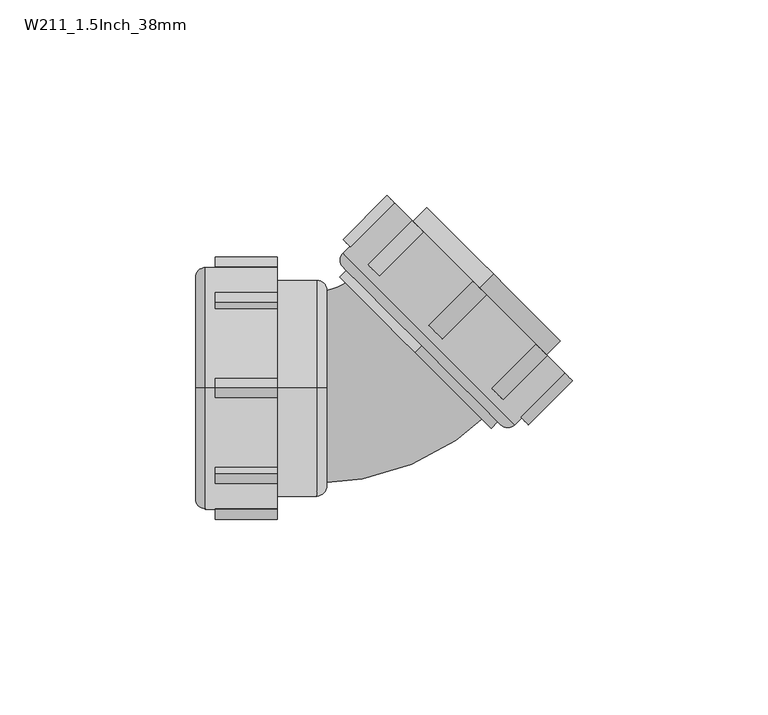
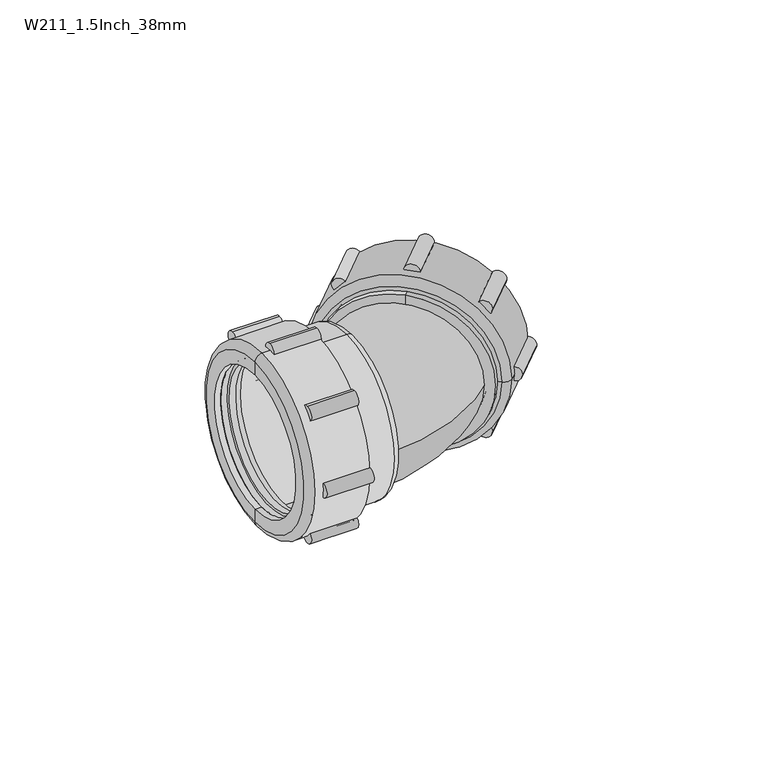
"""IFC4 building model written with IfcOpenShell, lengths in millimetres: pipe fitting geometry, Durapipe_PipeFitting_VulcatheneMechanical_135LooseNutSweepBend_W21 : W211_1.5Inch_38mm."""

from ifc_helpers import new_model, si_unit, point, frame, frame_2d, origin, place, context, project, spatial, polyline, circle_curve, ellipse_curve, trimmed, segment, composite_curve, outline, extrude, source, transform, mapped, element, save
from ifc_brep_helpers import plane_surface, cylinder_surface, revolved_surface, advanced_brep


def w211_1_5inch_38mm_d5a7223a(model_context):
    return source(origin(), model_context, "Body", "SolidModel", [
        advanced_brep(
        [(0.6235745, 26.9235745, 18.5969083), (1.6735745, 25.8735745, 17.1119841), (25.8735745, 1.6735745, -17.1119841), (26.9235745, 0.6235745, -18.5969083), (4.3591084, 30.2591084, 18.3140656), (30.2591084, 4.3591084, -18.3140656), (5.5697685, 31.1697685, 18.1019336), (4.5091084, 30.1091084, 18.1019336), (30.1091084, 4.5091084, -18.1019336), (31.1697685, 5.5697685, -18.1019336), (30.4697685, 6.2697685, -17.1119841), (6.2697685, 30.4697685, 17.1119841), (29.055555, 4.855555, -17.1119841), (4.855555, 29.055555, 17.1119841), (28.655555, 5.255555, -16.5462987), (5.255555, 28.655555, 16.5462987), (3.2292094, 27.4292094, 17.1119841), (3.6292094, 27.0292094, 16.5462987), (27.0292094, 3.6292094, -16.5462987), (27.4292094, 3.2292094, -17.1119841)],
        [
            (0, 1),
            (1, 2, circle_curve(frame((13.7735745, 13.7735745, 0.0), z_axis=(0.7071067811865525, 0.7071067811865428, 0.0), x_axis=(0.4999999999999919, -0.5000000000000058, -0.7071067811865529)), 24.2)),
            (2, 3),
            (3, 0, circle_curve(frame((13.7735745, 13.7735745, 0.0), z_axis=(-0.7071067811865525, -0.7071067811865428, 0.0), x_axis=(0.4999999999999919, -0.5000000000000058, -0.7071067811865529)), 26.3)),
            (2, 1, circle_curve(frame((13.7735745, 13.7735745, 0.0), z_axis=(0.7071067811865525, 0.7071067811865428, 0.0), x_axis=(0.4999999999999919, -0.5000000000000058, -0.7071067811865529)), 24.2)),
            (0, 3, circle_curve(frame((13.7735745, 13.7735745, 0.0), z_axis=(-0.7071067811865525, -0.7071067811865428, 0.0), x_axis=(0.4999999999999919, -0.5000000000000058, -0.7071067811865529)), 26.3)),
            (4, 0),
            (3, 5),
            (5, 4, circle_curve(frame((17.3091084, 17.3091084, 0.0), z_axis=(-0.7071067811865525, -0.7071067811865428, 0.0), x_axis=(0.4999999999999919, -0.5000000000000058, -0.7071067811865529)), 25.9)),
            (4, 5, circle_curve(frame((17.3091084, 17.3091084, 0.0), z_axis=(-0.7071067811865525, -0.7071067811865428, 0.0), x_axis=(0.4999999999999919, -0.5000000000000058, -0.7071067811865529)), 25.9)),
            (6, 7),
            (7, 8, circle_curve(frame((17.3091084, 17.3091084, 0.0), z_axis=(0.7071067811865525, 0.7071067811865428, 0.0), x_axis=(0.4999999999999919, -0.5000000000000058, -0.7071067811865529)), 25.6)),
            (8, 9),
            (9, 6, circle_curve(frame((18.3697685, 18.3697685, 0.0), z_axis=(-0.7071067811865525, -0.7071067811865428, 0.0), x_axis=(0.4999999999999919, -0.5000000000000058, -0.7071067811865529)), 25.6)),
            (8, 7, circle_curve(frame((17.3091084, 17.3091084, 0.0), z_axis=(0.7071067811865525, 0.7071067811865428, 0.0), x_axis=(0.4999999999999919, -0.5000000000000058, -0.7071067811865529)), 25.6)),
            (6, 9, circle_curve(frame((18.3697685, 18.3697685, 0.0), z_axis=(-0.7071067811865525, -0.7071067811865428, 0.0), x_axis=(0.4999999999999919, -0.5000000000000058, -0.7071067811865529)), 25.6)),
            (9, 10),
            (10, 11, circle_curve(frame((18.3697685, 18.3697685, 0.0), z_axis=(-0.7071067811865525, -0.7071067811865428, 0.0), x_axis=(0.4999999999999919, -0.5000000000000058, -0.7071067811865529)), 24.2)),
            (11, 6),
            (11, 10, circle_curve(frame((18.3697685, 18.3697685, 0.0), z_axis=(-0.7071067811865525, -0.7071067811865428, 0.0), x_axis=(0.4999999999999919, -0.5000000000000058, -0.7071067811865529)), 24.2)),
            (10, 12),
            (12, 13, circle_curve(frame((16.955555, 16.955555, 0.0), z_axis=(-0.7071067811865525, -0.7071067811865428, 0.0), x_axis=(0.4999999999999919, -0.5000000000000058, -0.7071067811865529)), 24.2)),
            (13, 11),
            (13, 12, circle_curve(frame((16.955555, 16.955555, 0.0), z_axis=(-0.7071067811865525, -0.7071067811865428, 0.0), x_axis=(0.4999999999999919, -0.5000000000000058, -0.7071067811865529)), 24.2)),
            (12, 14),
            (14, 15, circle_curve(frame((16.955555, 16.955555, 0.0), z_axis=(-0.7071067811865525, -0.7071067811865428, 0.0), x_axis=(0.4999999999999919, -0.5000000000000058, -0.7071067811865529)), 23.4)),
            (15, 13),
            (15, 14, circle_curve(frame((16.955555, 16.955555, 0.0), z_axis=(-0.7071067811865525, -0.7071067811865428, 0.0), x_axis=(0.4999999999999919, -0.5000000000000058, -0.7071067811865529)), 23.4)),
            (16, 17),
            (17, 18, circle_curve(frame((15.3292094, 15.3292094, 0.0), z_axis=(0.7071067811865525, 0.7071067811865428, 0.0), x_axis=(0.4999999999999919, -0.5000000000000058, -0.7071067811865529)), 23.4)),
            (18, 19),
            (19, 16, circle_curve(frame((15.3292094, 15.3292094, 0.0), z_axis=(-0.7071067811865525, -0.7071067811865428, 0.0), x_axis=(0.4999999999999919, -0.5000000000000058, -0.7071067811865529)), 24.2)),
            (18, 17, circle_curve(frame((15.3292094, 15.3292094, 0.0), z_axis=(0.7071067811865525, 0.7071067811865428, 0.0), x_axis=(0.4999999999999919, -0.5000000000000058, -0.7071067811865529)), 23.4)),
            (16, 19, circle_curve(frame((15.3292094, 15.3292094, 0.0), z_axis=(-0.7071067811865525, -0.7071067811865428, 0.0), x_axis=(0.4999999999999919, -0.5000000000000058, -0.7071067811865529)), 24.2)),
            (1, 16),
            (19, 2),
            (14, 18),
            (17, 15),
            (5, 8),
            (7, 4),
        ],
        [
            plane_surface(frame((13.7735745, 13.7735745, 0.0), z_axis=(-0.7071067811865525, -0.7071067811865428, 0.0), x_axis=(0.4999999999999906, -0.5000000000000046, -0.7071067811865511))),
            revolved_surface(polyline([(26.9235745, 0.6235745, -18.5969083), (30.2591084, 4.3591084, -18.3140656)]), (10.2380405, 10.2380405, 0.0), (0.7071067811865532, 0.7071067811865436, 0.0)),
            cylinder_surface(frame((19.8339432, 19.8339432, 0.0), z_axis=(0.7071067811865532, 0.7071067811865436, 0.0), x_axis=(0.4999999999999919, -0.5000000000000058, -0.7071067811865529)), 25.6),
            plane_surface(frame((18.3697685, 18.3697685, 0.0), z_axis=(0.7071067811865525, 0.7071067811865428, 0.0), x_axis=(0.4999999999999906, -0.5000000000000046, -0.7071067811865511))),
            revolved_surface(polyline([(30.469768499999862, 6.2697684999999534, -17.11198410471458), (29.055554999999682, 4.855554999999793, -17.11198410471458)]), (20.8396861, 20.8396861, 0.0), (0.7071067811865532, 0.7071067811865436, 0.0)),
            plane_surface(frame((16.955555, 16.955555, 0.0), z_axis=(0.7071067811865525, 0.7071067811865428, 0.0), x_axis=(0.4999999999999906, -0.5000000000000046, -0.7071067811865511))),
            plane_surface(frame((15.3292094, 15.3292094, 0.0), z_axis=(-0.7071067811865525, -0.7071067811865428, 0.0), x_axis=(0.4999999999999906, -0.5000000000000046, -0.7071067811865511))),
            revolved_surface(polyline([(27.429209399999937, 3.229209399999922, -17.11198410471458), (25.873574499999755, 1.6735744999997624, -17.11198410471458)]), (10.2380405, 10.2380405, 0.0), (0.7071067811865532, 0.7071067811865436, 0.0)),
            revolved_surface(polyline([(28.65555499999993, 5.2555549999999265, -16.546298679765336), (27.029209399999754, 3.629209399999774, -16.546298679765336)]), (12.6661092, 12.6661092, 0.0), (0.7071067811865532, 0.7071067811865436, 0.0)),
            plane_surface(frame((17.3091084, 17.3091084, 0.0), z_axis=(0.7071067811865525, 0.7071067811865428, 0.0), x_axis=(0.4999999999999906, -0.5000000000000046, -0.7071067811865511))),
        ],
        [
            (0, [[1, 2, 3, 4]]),
            (0, [[5, -1, 6, -3]]),
            (1, [[7, -4, 8, 9]]),
            (1, [[-8, -6, -7, 10]]),
            (2, [[11, 12, 13, 14]]),
            (2, [[15, -11, 16, -13]]),
            (3, [[17, 18, 19, -14]]),
            (3, [[-19, 20, -17, -16]]),
            (4, [[-18, 21, 22, 23]]),
            (4, [[24, -21, -20, -23]]),
            (5, [[25, 26, 27, -22]]),
            (5, [[-27, 28, -25, -24]]),
            (6, [[29, 30, 31, 32]]),
            (6, [[-31, 33, -29, 34]]),
            (7, [[35, -32, 36, -2]]),
            (7, [[-36, -34, -35, -5]]),
            (8, [[-26, 37, -30, 38]]),
            (8, [[-33, -37, -28, -38]]),
            (9, [[39, -12, 40, -9]]),
            (9, [[-40, -15, -39, -10]]),
        ],
    ),
        advanced_brep(
        [(3.6619475, 47.5025679, 0.0), (-9.3488173, 34.4918031, 0.0), (34.4918031, -9.3488173, 0.0), (47.5025679, 3.6619475, 0.0), (7.1974814, 43.967034, 0.0), (43.967034, 7.1974814, 0.0), (-9.3488173, 30.9562692, 0.0), (-6.1668368, 27.7742887, 0.0), (27.7742887, -6.1668368, 0.0), (30.9562692, -9.3488173, 0.0), (-4.6112019, 32.1583508, 0.0), (32.1583508, -4.6112019, 0.0), (-3.1969883, 30.7441372, 0.0), (30.7441372, -3.1969883, 0.0)],
        [
            (0, 1),
            (1, 2, circle_curve(frame((12.5714929, 12.5714929, 0.0), z_axis=(0.7071067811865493, 0.7071067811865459, 0.0), x_axis=(0.7071067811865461, -0.7071067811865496, 0.0)), 31.0)),
            (2, 3),
            (3, 0, circle_curve(frame((25.5822577, 25.5822577, 0.0), z_axis=(-0.7071067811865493, -0.7071067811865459, 0.0), x_axis=(0.7071067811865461, -0.7071067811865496, 0.0)), 31.0)),
            (2, 1, circle_curve(frame((12.5714929, 12.5714929, 0.0), z_axis=(0.7071067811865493, 0.7071067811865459, 0.0), x_axis=(0.7071067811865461, -0.7071067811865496, 0.0)), 31.0)),
            (0, 3, circle_curve(frame((25.5822577, 25.5822577, 0.0), z_axis=(-0.7071067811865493, -0.7071067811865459, 0.0), x_axis=(0.7071067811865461, -0.7071067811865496, 0.0)), 31.0)),
            (4, 0),
            (3, 5),
            (5, 4, circle_curve(frame((25.5822577, 25.5822577, 0.0), z_axis=(-0.7071067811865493, -0.7071067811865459, 0.0), x_axis=(0.7071067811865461, -0.7071067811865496, 0.0)), 26.0)),
            (4, 5, circle_curve(frame((25.5822577, 25.5822577, 0.0), z_axis=(-0.7071067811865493, -0.7071067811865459, 0.0), x_axis=(0.7071067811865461, -0.7071067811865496, 0.0)), 26.0)),
            (6, 7),
            (7, 8, circle_curve(frame((10.803726, 10.803726, 0.0), z_axis=(0.7071067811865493, 0.7071067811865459, 0.0), x_axis=(0.7071067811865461, -0.7071067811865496, 0.0)), 24.0)),
            (8, 9),
            (9, 6, circle_curve(frame((10.803726, 10.803726, 0.0), z_axis=(-0.7071067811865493, -0.7071067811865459, 0.0), x_axis=(0.7071067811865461, -0.7071067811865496, 0.0)), 28.5)),
            (8, 7, circle_curve(frame((10.803726, 10.803726, 0.0), z_axis=(0.7071067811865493, 0.7071067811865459, 0.0), x_axis=(0.7071067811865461, -0.7071067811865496, 0.0)), 24.0)),
            (6, 9, circle_curve(frame((10.803726, 10.803726, 0.0), z_axis=(-0.7071067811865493, -0.7071067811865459, 0.0), x_axis=(0.7071067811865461, -0.7071067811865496, 0.0)), 28.5)),
            (1, 6, circle_curve(frame((-7.5810503, 32.7240362, 0.0), z_axis=(0.0, 0.0, 1.0000000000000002), x_axis=(-0.7071067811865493, -0.7071067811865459, 0.0)), 2.5)),
            (9, 2, circle_curve(frame((32.7240362, -7.5810503, 0.0), z_axis=(0.0, 0.0, 1.0000000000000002), x_axis=(-0.7071067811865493, -0.7071067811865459, 0.0)), 2.5)),
            (10, 4),
            (5, 11),
            (11, 10, circle_curve(frame((13.7735745, 13.7735745, 0.0), z_axis=(-0.7071067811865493, -0.7071067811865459, 0.0), x_axis=(0.7071067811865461, -0.7071067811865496, 0.0)), 26.0)),
            (10, 11, circle_curve(frame((13.7735745, 13.7735745, 0.0), z_axis=(-0.7071067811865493, -0.7071067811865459, 0.0), x_axis=(0.7071067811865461, -0.7071067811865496, 0.0)), 26.0)),
            (12, 10),
            (11, 13),
            (13, 12, circle_curve(frame((13.7735745, 13.7735745, 0.0), z_axis=(-0.7071067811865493, -0.7071067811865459, 0.0), x_axis=(0.7071067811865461, -0.7071067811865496, 0.0)), 24.0)),
            (12, 13, circle_curve(frame((13.7735745, 13.7735745, 0.0), z_axis=(-0.7071067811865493, -0.7071067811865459, 0.0), x_axis=(0.7071067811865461, -0.7071067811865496, 0.0)), 24.0)),
            (7, 12),
            (13, 8),
        ],
        [
            cylinder_surface(frame((-1092.8498239, -1092.8498239, 0.0), z_axis=(0.7071067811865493, 0.7071067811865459, 0.0), x_axis=(0.7071067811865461, -0.7071067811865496, 0.0)), 31.0),
            plane_surface(frame((25.5822577, 25.5822577, 0.0), z_axis=(0.7071067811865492, 0.7071067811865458, 0.0), x_axis=(0.7071067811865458, -0.7071067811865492, 0.0))),
            plane_surface(frame((10.803726, 10.803726, 0.0), z_axis=(-0.7071067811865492, -0.7071067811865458, 0.0), x_axis=(0.7071067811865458, -0.7071067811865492, 0.0))),
            revolved_surface(trimmed(ellipse_curve(frame((32.7240362, -7.5810503, 0.0), z_axis=(0.0, 0.0, 1.0000000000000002), x_axis=(-0.7071067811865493, -0.7071067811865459, 0.0)), 2.5, 2.5), [point((30.9562692, -9.3488173, 0.0))], [point((34.4918031, -9.3488173, 0.0))], True, "CARTESIAN"), (-1092.8498239, -1092.8498239, 0.0), (0.7071067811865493, 0.7071067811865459, 0.0)),
            revolved_surface(polyline([(43.96703401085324, 7.19748138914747, 0.0), (32.15835076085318, -4.611201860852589, 0.0)]), (-1092.8498239, -1092.8498239, 0.0), (0.7071067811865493, 0.7071067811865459, 0.0)),
            plane_surface(frame((13.7735745, 13.7735745, 0.0), z_axis=(0.7071067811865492, 0.7071067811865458, 0.0), x_axis=(0.7071067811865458, -0.7071067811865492, 0.0))),
            revolved_surface(polyline([(30.74413724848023, -3.196988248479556, 0.0), (27.77428869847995, -6.166836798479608, 0.0)]), (-1092.8498239, -1092.8498239, 0.0), (0.7071067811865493, 0.7071067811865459, 0.0)),
        ],
        [
            (0, [[1, 2, 3, 4]]),
            (0, [[-3, 5, -1, 6]]),
            (1, [[7, -4, 8, 9]]),
            (1, [[-8, -6, -7, 10]]),
            (2, [[11, 12, 13, 14]]),
            (2, [[-13, 15, -11, 16]]),
            (3, [[17, -14, 18, -2]]),
            (3, [[-18, -16, -17, -5]]),
            (4, [[19, -9, 20, 21]]),
            (4, [[-20, -10, -19, 22]]),
            (5, [[23, -21, 24, 25]]),
            (5, [[-24, -22, -23, 26]]),
            (6, [[27, -25, 28, -12]]),
            (6, [[-28, -26, -27, -15]]),
        ],
    ),
        extrude(outline(composite_curve([segment(trimmed(circle_curve(frame_2d((0.0, 2.5)), 2.5), [point((0.0, 5.0))], [point((0.0, 0.0))], False, "CARTESIAN"), True, "CONTINUOUS"), segment(trimmed(circle_curve(frame_2d((0.0, 2.5)), 2.5), [point((0.0, 0.0))], [point((0.0, 5.0))], False, "CARTESIAN"), True, "CONTINUOUS")], self_intersect=False)), frame((16.1070268, 12.5714929, -31.0), z_axis=(0.7071067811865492, 0.7071067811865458, 0.0), x_axis=(0.0, 0.0, -1.0)), (0.0, 0.0, 1.0), 15.9),
        extrude(outline(composite_curve([segment(trimmed(circle_curve(frame_2d((-9.0796898, -19.4203102)), 2.5), [point((-9.0796898, -16.9203102))], [point((-9.0796898, -21.9203102))], False, "CARTESIAN"), True, "CONTINUOUS"), segment(trimmed(circle_curve(frame_2d((-9.0796898, -19.4203102)), 2.5), [point((-9.0796898, -21.9203102))], [point((-9.0796898, -16.9203102))], False, "CARTESIAN"), True, "CONTINUOUS")], self_intersect=False)), frame((16.1070268, 12.5714929, -31.0), z_axis=(0.7071067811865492, 0.7071067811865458, 0.0), x_axis=(0.0, 0.0, -1.0)), (0.0, 0.0, 1.0), 15.9),
        extrude(outline(composite_curve([segment(trimmed(circle_curve(frame_2d((-31.0, -28.5)), 2.5), [point((-31.0, -26.0))], [point((-31.0, -31.0))], False, "CARTESIAN"), True, "CONTINUOUS"), segment(trimmed(circle_curve(frame_2d((-31.0, -28.5)), 2.5), [point((-31.0, -31.0))], [point((-31.0, -26.0))], False, "CARTESIAN"), True, "CONTINUOUS")], self_intersect=False)), frame((16.1070268, 12.5714929, -31.0), z_axis=(0.7071067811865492, 0.7071067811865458, 0.0), x_axis=(0.0, 0.0, -1.0)), (0.0, 0.0, 1.0), 15.9),
        extrude(outline(composite_curve([segment(trimmed(circle_curve(frame_2d((-52.9203102, -19.4203102)), 2.5), [point((-52.9203102, -16.9203102))], [point((-52.9203102, -21.9203102))], False, "CARTESIAN"), True, "CONTINUOUS"), segment(trimmed(circle_curve(frame_2d((-52.9203102, -19.4203102)), 2.5), [point((-52.9203102, -21.9203102))], [point((-52.9203102, -16.9203102))], False, "CARTESIAN"), True, "CONTINUOUS")], self_intersect=False)), frame((16.1070268, 12.5714929, -31.0), z_axis=(0.7071067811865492, 0.7071067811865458, 0.0), x_axis=(0.0, 0.0, -1.0)), (0.0, 0.0, 1.0), 15.9),
        extrude(outline(composite_curve([segment(trimmed(circle_curve(frame_2d((-62.0, 2.5)), 2.5), [point((-62.0, 5.0))], [point((-62.0, 0.0))], False, "CARTESIAN"), True, "CONTINUOUS"), segment(trimmed(circle_curve(frame_2d((-62.0, 2.5)), 2.5), [point((-62.0, 0.0))], [point((-62.0, 5.0))], False, "CARTESIAN"), True, "CONTINUOUS")], self_intersect=False)), frame((16.1070268, 12.5714929, -31.0), z_axis=(0.7071067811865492, 0.7071067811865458, 0.0), x_axis=(0.0, 0.0, -1.0)), (0.0, 0.0, 1.0), 15.9),
        extrude(outline(composite_curve([segment(trimmed(circle_curve(frame_2d((-52.9203102, 24.4203102)), 2.5), [point((-52.9203102, 26.9203102))], [point((-52.9203102, 21.9203102))], False, "CARTESIAN"), True, "CONTINUOUS"), segment(trimmed(circle_curve(frame_2d((-52.9203102, 24.4203102)), 2.5), [point((-52.9203102, 21.9203102))], [point((-52.9203102, 26.9203102))], False, "CARTESIAN"), True, "CONTINUOUS")], self_intersect=False)), frame((16.1070268, 12.5714929, -31.0), z_axis=(0.7071067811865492, 0.7071067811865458, 0.0), x_axis=(0.0, 0.0, -1.0)), (0.0, 0.0, 1.0), 15.9),
        extrude(outline(composite_curve([segment(trimmed(circle_curve(frame_2d((-31.0, 33.5)), 2.5), [point((-31.0, 36.0))], [point((-31.0, 31.0))], False, "CARTESIAN"), True, "CONTINUOUS"), segment(trimmed(circle_curve(frame_2d((-31.0, 33.5)), 2.5), [point((-31.0, 31.0))], [point((-31.0, 36.0))], False, "CARTESIAN"), True, "CONTINUOUS")], self_intersect=False)), frame((16.1070268, 12.5714929, -31.0), z_axis=(0.7071067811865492, 0.7071067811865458, 0.0), x_axis=(0.0, 0.0, -1.0)), (0.0, 0.0, 1.0), 15.9),
        extrude(outline(composite_curve([segment(trimmed(circle_curve(frame_2d((-9.0796898, 24.4203102)), 2.5), [point((-9.0796898, 26.9203102))], [point((-9.0796898, 21.9203102))], False, "CARTESIAN"), True, "CONTINUOUS"), segment(trimmed(circle_curve(frame_2d((-9.0796898, 24.4203102)), 2.5), [point((-9.0796898, 21.9203102))], [point((-9.0796898, 26.9203102))], False, "CARTESIAN"), True, "CONTINUOUS")], self_intersect=False)), frame((16.1070268, 12.5714929, -31.0), z_axis=(0.7071067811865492, 0.7071067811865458, 0.0), x_axis=(0.0, 0.0, -1.0)), (0.0, 0.0, 1.0), 15.9),
        advanced_brep(
        [(29.1177916, 29.1177916, 24.2), (29.1177916, 29.1177916, -24.2), (29.1177916, 29.1177916, -20.4), (29.1177916, 29.1177916, 20.4), (10.803726, 10.803726, 24.2), (10.803726, 10.803726, -24.2), (10.803726, 10.803726, 27.4), (10.803726, 10.803726, -27.4), (9.1066697, 9.1066697, 27.4), (9.1066697, 9.1066697, -27.4), (9.1066697, 9.1066697, 20.4), (9.1066697, 9.1066697, -20.4)],
        [
            (0, 1, circle_curve(frame((29.1177916, 29.1177916, 0.0), z_axis=(0.7071067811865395, 0.7071067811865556, 0.0), x_axis=(0.0, 0.0, -1.0)), 24.2)),
            (1, 2),
            (2, 3, circle_curve(frame((29.1177916, 29.1177916, 0.0), z_axis=(-0.7071067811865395, -0.7071067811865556, 0.0), x_axis=(0.0, 0.0, -1.0)), 20.4)),
            (3, 0),
            (1, 0, circle_curve(frame((29.1177916, 29.1177916, 0.0), z_axis=(0.7071067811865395, 0.7071067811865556, 0.0), x_axis=(0.0, 0.0, -1.0)), 24.2)),
            (3, 2, circle_curve(frame((29.1177916, 29.1177916, 0.0), z_axis=(-0.7071067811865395, -0.7071067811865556, 0.0), x_axis=(0.0, 0.0, -1.0)), 20.4)),
            (4, 5, circle_curve(frame((10.803726, 10.803726, 0.0), z_axis=(0.7071067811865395, 0.7071067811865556, 0.0), x_axis=(0.0, 0.0, -1.0)), 24.2)),
            (5, 1),
            (0, 4),
            (5, 4, circle_curve(frame((10.803726, 10.803726, 0.0), z_axis=(0.7071067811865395, 0.7071067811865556, 0.0), x_axis=(0.0, 0.0, -1.0)), 24.2)),
            (6, 7, circle_curve(frame((10.803726, 10.803726, 0.0), z_axis=(0.7071067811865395, 0.7071067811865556, 0.0), x_axis=(0.0, 0.0, -1.0)), 27.4)),
            (7, 5),
            (4, 6),
            (7, 6, circle_curve(frame((10.803726, 10.803726, 0.0), z_axis=(0.7071067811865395, 0.7071067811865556, 0.0), x_axis=(0.0, 0.0, -1.0)), 27.4)),
            (8, 9, circle_curve(frame((9.1066697, 9.1066697, 0.0), z_axis=(0.7071067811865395, 0.7071067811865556, 0.0), x_axis=(0.0, 0.0, -1.0)), 27.4)),
            (9, 7),
            (6, 8),
            (9, 8, circle_curve(frame((9.1066697, 9.1066697, 0.0), z_axis=(0.7071067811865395, 0.7071067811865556, 0.0), x_axis=(0.0, 0.0, -1.0)), 27.4)),
            (10, 11, circle_curve(frame((9.1066697, 9.1066697, 0.0), z_axis=(0.7071067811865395, 0.7071067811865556, 0.0), x_axis=(0.0, 0.0, -1.0)), 20.4)),
            (11, 9),
            (8, 10),
            (11, 10, circle_curve(frame((9.1066697, 9.1066697, 0.0), z_axis=(0.7071067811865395, 0.7071067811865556, 0.0), x_axis=(0.0, 0.0, -1.0)), 20.4)),
            (2, 11),
            (10, 3),
        ],
        [
            plane_surface(frame((29.1177916, 29.1177916, 0.0), z_axis=(0.7071067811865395, 0.7071067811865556, 0.0), x_axis=(0.0, 0.0, -1.0))),
            cylinder_surface(frame((36.1888594, 36.1888594, 0.0), z_axis=(-0.7071067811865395, -0.7071067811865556, 0.0), x_axis=(0.0, 0.0, -1.0)), 24.2),
            plane_surface(frame((10.803726, 10.803726, 0.0), z_axis=(0.7071067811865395, 0.7071067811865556, 0.0), x_axis=(0.0, 0.0, -1.0))),
            cylinder_surface(frame((36.1888594, 36.1888594, 0.0), z_axis=(-0.7071067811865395, -0.7071067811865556, 0.0), x_axis=(0.0, 0.0, -1.0)), 27.4),
            plane_surface(frame((9.1066697, 9.1066697, 0.0), z_axis=(-0.7071067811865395, -0.7071067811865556, 0.0), x_axis=(0.0, 0.0, -1.0))),
            revolved_surface(polyline([(9.106669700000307, 9.106669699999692, -20.4), (29.117791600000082, 29.11779159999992, -20.4)]), (36.1888594, 36.1888594, 0.0), (-0.7071067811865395, -0.7071067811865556, 0.0)),
        ],
        [
            (0, [[1, 2, 3, 4]]),
            (0, [[5, -4, 6, -2]]),
            (1, [[7, 8, -1, 9]]),
            (1, [[10, -9, -5, -8]]),
            (2, [[11, 12, -7, 13]]),
            (2, [[14, -13, -10, -12]]),
            (3, [[15, 16, -11, 17]]),
            (3, [[18, -17, -14, -16]]),
            (4, [[19, 20, -15, 21]]),
            (4, [[22, -21, -18, -20]]),
            (5, [[-3, 23, -19, 24]]),
            (5, [[-6, -24, -22, -23]]),
        ],
    ),
        advanced_brep(
        [(-44.6141269, -18.5969083, -18.5969083), (-44.6141269, 18.5969083, 18.5969083), (-44.6141269, 17.1119841, 17.1119841), (-44.6141269, -17.1119841, -17.1119841), (-39.6141269, -18.3140656, -18.3140656), (-39.6141269, 18.3140656, 18.3140656), (-38.1141269, -18.1019336, -18.1019336), (-38.1141269, 18.1019336, 18.1019336), (-39.6141269, 18.1019336, 18.1019336), (-39.6141269, -18.1019336, -18.1019336), (-38.1141269, -17.1119841, -17.1119841), (-38.1141269, 17.1119841, 17.1119841), (-40.1141269, -17.1119841, -17.1119841), (-40.1141269, 17.1119841, 17.1119841), (-40.1141269, -16.5462987, -16.5462987), (-40.1141269, 16.5462987, 16.5462987), (-42.4141269, -17.1119841, -17.1119841), (-42.4141269, 17.1119841, 17.1119841), (-42.4141269, 16.5462987, 16.5462987), (-42.4141269, -16.5462987, -16.5462987)],
        [
            (0, 1, circle_curve(frame((-44.6141269, 0.0, 0.0), z_axis=(-1.0, 0.0, 0.0), x_axis=(0.0, 0.7071067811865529, 0.7071067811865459)), 26.3)),
            (1, 2),
            (2, 3, circle_curve(frame((-44.6141269, 0.0, 0.0), z_axis=(1.0, 0.0, 0.0), x_axis=(0.0, 0.7071067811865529, 0.7071067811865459)), 24.2)),
            (3, 0),
            (1, 0, circle_curve(frame((-44.6141269, 0.0, 0.0), z_axis=(-1.0, 0.0, 0.0), x_axis=(0.0, 0.7071067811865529, 0.7071067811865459)), 26.3)),
            (3, 2, circle_curve(frame((-44.6141269, 0.0, 0.0), z_axis=(1.0, 0.0, 0.0), x_axis=(0.0, 0.7071067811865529, 0.7071067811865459)), 24.2)),
            (4, 5, circle_curve(frame((-39.6141269, 0.0, 0.0), z_axis=(-1.0, 0.0, 0.0), x_axis=(0.0, 0.7071067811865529, 0.7071067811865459)), 25.9)),
            (5, 1),
            (0, 4),
            (5, 4, circle_curve(frame((-39.6141269, 0.0, 0.0), z_axis=(-1.0, 0.0, 0.0), x_axis=(0.0, 0.7071067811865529, 0.7071067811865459)), 25.9)),
            (6, 7, circle_curve(frame((-38.1141269, 0.0, 0.0), z_axis=(-1.0, 0.0, 0.0), x_axis=(0.0, 0.7071067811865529, 0.7071067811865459)), 25.6)),
            (7, 8),
            (8, 9, circle_curve(frame((-39.6141269, 0.0, 0.0), z_axis=(1.0, 0.0, 0.0), x_axis=(0.0, 0.7071067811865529, 0.7071067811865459)), 25.6)),
            (9, 6),
            (7, 6, circle_curve(frame((-38.1141269, 0.0, 0.0), z_axis=(-1.0, 0.0, 0.0), x_axis=(0.0, 0.7071067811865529, 0.7071067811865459)), 25.6)),
            (9, 8, circle_curve(frame((-39.6141269, 0.0, 0.0), z_axis=(1.0, 0.0, 0.0), x_axis=(0.0, 0.7071067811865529, 0.7071067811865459)), 25.6)),
            (6, 10),
            (10, 11, circle_curve(frame((-38.1141269, 0.0, 0.0), z_axis=(-1.0, 0.0, 0.0), x_axis=(0.0, 0.7071067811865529, 0.7071067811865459)), 24.2)),
            (11, 7),
            (11, 10, circle_curve(frame((-38.1141269, 0.0, 0.0), z_axis=(-1.0, 0.0, 0.0), x_axis=(0.0, 0.7071067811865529, 0.7071067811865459)), 24.2)),
            (10, 12),
            (12, 13, circle_curve(frame((-40.1141269, 0.0, 0.0), z_axis=(-1.0, 0.0, 0.0), x_axis=(0.0, 0.7071067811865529, 0.7071067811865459)), 24.2)),
            (13, 11),
            (13, 12, circle_curve(frame((-40.1141269, 0.0, 0.0), z_axis=(-1.0, 0.0, 0.0), x_axis=(0.0, 0.7071067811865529, 0.7071067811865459)), 24.2)),
            (12, 14),
            (14, 15, circle_curve(frame((-40.1141269, 0.0, 0.0), z_axis=(-1.0, 0.0, 0.0), x_axis=(0.0, 0.7071067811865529, 0.7071067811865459)), 23.4)),
            (15, 13),
            (15, 14, circle_curve(frame((-40.1141269, 0.0, 0.0), z_axis=(-1.0, 0.0, 0.0), x_axis=(0.0, 0.7071067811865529, 0.7071067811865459)), 23.4)),
            (16, 17, circle_curve(frame((-42.4141269, 0.0, 0.0), z_axis=(-1.0, 0.0, 0.0), x_axis=(0.0, 0.7071067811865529, 0.7071067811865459)), 24.2)),
            (17, 18),
            (18, 19, circle_curve(frame((-42.4141269, 0.0, 0.0), z_axis=(1.0, 0.0, 0.0), x_axis=(0.0, 0.7071067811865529, 0.7071067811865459)), 23.4)),
            (19, 16),
            (17, 16, circle_curve(frame((-42.4141269, 0.0, 0.0), z_axis=(-1.0, 0.0, 0.0), x_axis=(0.0, 0.7071067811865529, 0.7071067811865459)), 24.2)),
            (19, 18, circle_curve(frame((-42.4141269, 0.0, 0.0), z_axis=(1.0, 0.0, 0.0), x_axis=(0.0, 0.7071067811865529, 0.7071067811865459)), 23.4)),
            (2, 17),
            (16, 3),
            (14, 19),
            (18, 15),
            (4, 9),
            (8, 5),
        ],
        [
            plane_surface(frame((-44.6141269, 0.0, 0.0), z_axis=(-1.0, 0.0, 0.0), x_axis=(0.0, 0.707106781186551, 0.707106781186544))),
            revolved_surface(polyline([(-44.6141269, 18.5969083, 18.5969083), (-39.6141269, 18.3140656, 18.3140656)]), (-49.6141269, 0.0, 0.0), (1.0000000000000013, 0.0, 0.0)),
            cylinder_surface(frame((-36.0434712, 0.0, 0.0), z_axis=(1.0000000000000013, 0.0, 0.0), x_axis=(0.0, 0.7071067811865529, 0.7071067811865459)), 25.6),
            plane_surface(frame((-38.1141269, 0.0, 0.0), z_axis=(1.0, 0.0, 0.0), x_axis=(0.0, 0.707106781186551, 0.707106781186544))),
            revolved_surface(polyline([(-38.11412690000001, 17.11198410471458, 17.11198410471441), (-40.11412690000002, 17.11198410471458, 17.11198410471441)]), (-34.621136, 0.0, 0.0), (1.0000000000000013, 0.0, 0.0)),
            plane_surface(frame((-40.1141269, 0.0, 0.0), z_axis=(1.0, 0.0, 0.0), x_axis=(0.0, 0.707106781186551, 0.707106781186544))),
            plane_surface(frame((-42.4141269, 0.0, 0.0), z_axis=(-1.0, 0.0, 0.0), x_axis=(0.0, 0.707106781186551, 0.707106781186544))),
            revolved_surface(polyline([(-42.41412689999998, 17.11198410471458, 17.11198410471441), (-44.61412689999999, 17.11198410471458, 17.11198410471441)]), (-49.6141269, 0.0, 0.0), (1.0000000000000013, 0.0, 0.0)),
            revolved_surface(polyline([(-40.11412689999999, 16.546298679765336, 16.546298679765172), (-42.41412689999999, 16.546298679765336, 16.546298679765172)]), (-46.1803193, 0.0, 0.0), (1.0000000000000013, 0.0, 0.0)),
            plane_surface(frame((-39.6141269, 0.0, 0.0), z_axis=(1.0, 0.0, 0.0), x_axis=(0.0, 0.707106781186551, 0.707106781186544))),
        ],
        [
            (0, [[1, 2, 3, 4]]),
            (0, [[-2, 5, -4, 6]]),
            (1, [[7, 8, -1, 9]]),
            (1, [[10, -9, -5, -8]]),
            (2, [[11, 12, 13, 14]]),
            (2, [[-12, 15, -14, 16]]),
            (3, [[-11, 17, 18, 19]]),
            (3, [[-15, -19, 20, -17]]),
            (4, [[21, 22, 23, -18]]),
            (4, [[-21, -20, -23, 24]]),
            (5, [[-22, 25, 26, 27]]),
            (5, [[-24, -27, 28, -25]]),
            (6, [[29, 30, 31, 32]]),
            (6, [[33, -32, 34, -30]]),
            (7, [[-3, 35, -29, 36]]),
            (7, [[-6, -36, -33, -35]]),
            (8, [[37, -31, 38, -26]]),
            (8, [[-37, -28, -38, -34]]),
            (9, [[-7, 39, -13, 40]]),
            (9, [[-10, -40, -16, -39]]),
        ],
    ),
        advanced_brep(
        [(-26.1141269, 0.0, -31.0), (-26.1141269, 0.0, 31.0), (-44.5141269, 0.0, 31.0), (-44.5141269, 0.0, -31.0), (-26.1141269, 0.0, -27.7), (-26.1141269, 0.0, 27.7), (-47.0141269, 0.0, -28.5), (-47.0141269, 0.0, 28.5), (-47.0141269, 0.0, 24.0), (-47.0141269, 0.0, -24.0), (-44.6141269, 0.0, -26.0), (-44.6141269, 0.0, 26.0), (-17.3141269, 0.0, 26.0), (-17.3141269, 0.0, -26.0), (-44.6141269, 0.0, -24.0), (-44.6141269, 0.0, 24.0), (-16.0141269, 0.0, -27.7), (-16.0141269, 0.0, 27.7), (-13.5141269, 0.0, -25.2), (-13.5141269, 0.0, 25.2), (-13.5141269, 0.0, 0.0), (-17.3141269, 0.0, 0.0)],
        [
            (0, 1, circle_curve(frame((-26.1141269, 0.0, 0.0), z_axis=(-1.0, 0.0, 0.0), x_axis=(0.0, 0.0, 1.0000000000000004)), 31.0)),
            (1, 2),
            (2, 3, circle_curve(frame((-44.5141269, 0.0, 0.0), z_axis=(1.0, 0.0, 0.0), x_axis=(0.0, 0.0, 1.0000000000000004)), 31.0)),
            (3, 0),
            (1, 0, circle_curve(frame((-26.1141269, 0.0, 0.0), z_axis=(-1.0, 0.0, 0.0), x_axis=(0.0, 0.0, 1.0000000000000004)), 31.0)),
            (3, 2, circle_curve(frame((-44.5141269, 0.0, 0.0), z_axis=(1.0, 0.0, 0.0), x_axis=(0.0, 0.0, 1.0000000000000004)), 31.0)),
            (4, 5, circle_curve(frame((-26.1141269, 0.0, 0.0), z_axis=(-1.0, 0.0, 0.0), x_axis=(0.0, 0.0, 1.0000000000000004)), 27.7)),
            (5, 1),
            (0, 4),
            (5, 4, circle_curve(frame((-26.1141269, 0.0, 0.0), z_axis=(-1.0, 0.0, 0.0), x_axis=(0.0, 0.0, 1.0000000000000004)), 27.7)),
            (6, 7, circle_curve(frame((-47.0141269, 0.0, 0.0), z_axis=(-1.0, 0.0, 0.0), x_axis=(0.0, 0.0, 1.0000000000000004)), 28.5)),
            (7, 8),
            (8, 9, circle_curve(frame((-47.0141269, 0.0, 0.0), z_axis=(1.0, 0.0, 0.0), x_axis=(0.0, 0.0, 1.0000000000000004)), 24.0)),
            (9, 6),
            (7, 6, circle_curve(frame((-47.0141269, 0.0, 0.0), z_axis=(-1.0, 0.0, 0.0), x_axis=(0.0, 0.0, 1.0000000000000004)), 28.5)),
            (9, 8, circle_curve(frame((-47.0141269, 0.0, 0.0), z_axis=(1.0, 0.0, 0.0), x_axis=(0.0, 0.0, 1.0000000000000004)), 24.0)),
            (2, 7, circle_curve(frame((-44.5141269, 0.0, 28.5), z_axis=(0.0, -1.0000000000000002, 0.0), x_axis=(-1.0000000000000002, 0.0, 0.0)), 2.5)),
            (6, 3, circle_curve(frame((-44.5141269, 0.0, -28.5), z_axis=(0.0, -1.0000000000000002, 0.0), x_axis=(-1.0000000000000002, 0.0, 0.0)), 2.5)),
            (10, 11, circle_curve(frame((-44.6141269, 0.0, 0.0), z_axis=(-1.0, 0.0, 0.0), x_axis=(0.0, 0.0, 1.0000000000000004)), 26.0)),
            (11, 12),
            (12, 13, circle_curve(frame((-17.3141269, 0.0, 0.0), z_axis=(1.0, 0.0, 0.0), x_axis=(0.0, 0.0, 1.0000000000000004)), 26.0)),
            (13, 10),
            (11, 10, circle_curve(frame((-44.6141269, 0.0, 0.0), z_axis=(-1.0, 0.0, 0.0), x_axis=(0.0, 0.0, 1.0000000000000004)), 26.0)),
            (13, 12, circle_curve(frame((-17.3141269, 0.0, 0.0), z_axis=(1.0, 0.0, 0.0), x_axis=(0.0, 0.0, 1.0000000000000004)), 26.0)),
            (14, 15, circle_curve(frame((-44.6141269, 0.0, 0.0), z_axis=(-1.0, 0.0, 0.0), x_axis=(0.0, 0.0, 1.0000000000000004)), 24.0)),
            (15, 11),
            (10, 14),
            (15, 14, circle_curve(frame((-44.6141269, 0.0, 0.0), z_axis=(-1.0, 0.0, 0.0), x_axis=(0.0, 0.0, 1.0000000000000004)), 24.0)),
            (8, 15),
            (14, 9),
            (16, 17, circle_curve(frame((-16.0141269, 0.0, 0.0), z_axis=(-1.0, 0.0, 0.0), x_axis=(0.0, 0.0, 1.0000000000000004)), 27.7)),
            (17, 5),
            (4, 16),
            (17, 16, circle_curve(frame((-16.0141269, 0.0, 0.0), z_axis=(-1.0, 0.0, 0.0), x_axis=(0.0, 0.0, 1.0000000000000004)), 27.7)),
            (18, 19, circle_curve(frame((-13.5141269, 0.0, 0.0), z_axis=(-1.0, 0.0, 0.0), x_axis=(0.0, 0.0, 1.0000000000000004)), 25.2)),
            (19, 17, circle_curve(frame((-16.0141269, 0.0, 25.2), z_axis=(0.0, -1.0000000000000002, 0.0), x_axis=(-1.0000000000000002, 0.0, 0.0)), 2.5)),
            (16, 18, circle_curve(frame((-16.0141269, 0.0, -25.2), z_axis=(0.0, -1.0000000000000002, 0.0), x_axis=(-1.0000000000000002, 0.0, 0.0)), 2.5)),
            (19, 18, circle_curve(frame((-13.5141269, 0.0, 0.0), z_axis=(-1.0, 0.0, 0.0), x_axis=(0.0, 0.0, 1.0000000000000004)), 25.2)),
            (20, 19),
            (18, 20),
            (12, 21),
            (21, 13),
        ],
        [
            cylinder_surface(frame((-1607.8159453, 0.0, 0.0), z_axis=(1.0000000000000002, 0.0, 0.0), x_axis=(0.0, 0.0, 1.0000000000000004)), 31.0),
            plane_surface(frame((-26.1141269, 0.0, 0.0), z_axis=(1.0, 0.0, 0.0), x_axis=(0.0, 0.0, 1.0))),
            plane_surface(frame((-47.0141269, 0.0, 0.0), z_axis=(-1.0, 0.0, 0.0), x_axis=(0.0, 0.0, 1.0))),
            revolved_surface(trimmed(ellipse_curve(frame((-44.5141269, 0.0, 28.5), z_axis=(0.0, 1.0000000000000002, 0.0), x_axis=(-1.0000000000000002, 0.0, 0.0)), 2.5, 2.5), [point((-47.0141269, 0.0, 28.5))], [point((-44.5141269, 0.0, 31.0))], True, "CARTESIAN"), (-1607.8159453, 0.0, 0.0), (1.0000000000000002, 0.0, 0.0)),
            revolved_surface(polyline([(-17.31412689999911, 0.0, 26.00000000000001), (-44.614126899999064, 0.0, 26.00000000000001)]), (-1607.8159453, 0.0, 0.0), (1.0000000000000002, 0.0, 0.0)),
            plane_surface(frame((-44.6141269, 0.0, 0.0), z_axis=(1.0, 0.0, 0.0), x_axis=(0.0, 0.0, 1.0))),
            revolved_surface(polyline([(-44.614126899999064, 0.0, 24.00000000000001), (-47.014126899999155, 0.0, 24.00000000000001)]), (-1607.8159453, 0.0, 0.0), (1.0000000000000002, 0.0, 0.0)),
            cylinder_surface(frame((-1607.8159453, 0.0, 0.0), z_axis=(1.0000000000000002, 0.0, 0.0), x_axis=(0.0, 0.0, 1.0000000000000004)), 27.7),
            revolved_surface(trimmed(ellipse_curve(frame((-16.0141269, 0.0, 25.2), z_axis=(0.0, 1.0000000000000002, 0.0), x_axis=(-1.0000000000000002, 0.0, 0.0)), 2.5, 2.5), [point((-16.0141269, 0.0, 27.7))], [point((-13.5141269, 0.0, 25.2))], True, "CARTESIAN"), (-1607.8159453, 0.0, 0.0), (1.0000000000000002, 0.0, 0.0)),
            plane_surface(frame((-13.5141269, 0.0, 0.0), z_axis=(1.0, 0.0, 0.0), x_axis=(0.0, 0.0, 1.0))),
            plane_surface(frame((-17.3141269, 0.0, 0.0), z_axis=(-1.0, 0.0, 0.0), x_axis=(0.0, 0.0, 1.0))),
        ],
        [
            (0, [[1, 2, 3, 4]]),
            (0, [[5, -4, 6, -2]]),
            (1, [[7, 8, -1, 9]]),
            (1, [[10, -9, -5, -8]]),
            (2, [[11, 12, 13, 14]]),
            (2, [[15, -14, 16, -12]]),
            (3, [[-3, 17, -11, 18]]),
            (3, [[-6, -18, -15, -17]]),
            (4, [[19, 20, 21, 22]]),
            (4, [[23, -22, 24, -20]]),
            (5, [[25, 26, -19, 27]]),
            (5, [[28, -27, -23, -26]]),
            (6, [[-13, 29, -25, 30]]),
            (6, [[-16, -30, -28, -29]]),
            (7, [[31, 32, -7, 33]]),
            (7, [[34, -33, -10, -32]]),
            (8, [[35, 36, -31, 37]]),
            (8, [[38, -37, -34, -36]]),
            (9, [[39, -35, 40]]),
            (9, [[-40, -38, -39]]),
            (10, [[-21, 41, 42]]),
            (10, [[-24, -42, -41]]),
        ],
    ),
        extrude(outline(composite_curve([segment(trimmed(circle_curve(frame_2d((31.0, 0.0)), 2.5), [point((31.0, -2.5))], [point((31.0, 2.5))], False, "CARTESIAN"), True, "CONTINUOUS"), segment(trimmed(circle_curve(frame_2d((31.0, 0.0)), 2.5), [point((31.0, 2.5))], [point((31.0, -2.5))], False, "CARTESIAN"), True, "CONTINUOUS")], self_intersect=False)), frame((-42.0141269, 0.0, 0.0), z_axis=(1.0, 0.0, 0.0), x_axis=(0.0, 1.0, 0.0)), (0.0, 0.0, 1.0), 15.9),
        extrude(outline(composite_curve([segment(trimmed(circle_curve(frame_2d((21.9203102, 21.9203102)), 2.5), [point((21.9203102, 19.4203102))], [point((21.9203102, 24.4203102))], False, "CARTESIAN"), True, "CONTINUOUS"), segment(trimmed(circle_curve(frame_2d((21.9203102, 21.9203102)), 2.5), [point((21.9203102, 24.4203102))], [point((21.9203102, 19.4203102))], False, "CARTESIAN"), True, "CONTINUOUS")], self_intersect=False)), frame((-42.0141269, 0.0, 0.0), z_axis=(1.0, 0.0, 0.0), x_axis=(0.0, 1.0, 0.0)), (0.0, 0.0, 1.0), 15.9),
        extrude(outline(composite_curve([segment(trimmed(circle_curve(frame_2d((0.0, 31.0)), 2.5), [point((0.0, 28.5))], [point((0.0, 33.5))], False, "CARTESIAN"), True, "CONTINUOUS"), segment(trimmed(circle_curve(frame_2d((0.0, 31.0)), 2.5), [point((0.0, 33.5))], [point((0.0, 28.5))], False, "CARTESIAN"), True, "CONTINUOUS")], self_intersect=False)), frame((-42.0141269, 0.0, 0.0), z_axis=(1.0, 0.0, 0.0), x_axis=(0.0, 1.0, 0.0)), (0.0, 0.0, 1.0), 15.9),
        extrude(outline(composite_curve([segment(trimmed(circle_curve(frame_2d((-21.9203102, 21.9203102)), 2.5), [point((-21.9203102, 19.4203102))], [point((-21.9203102, 24.4203102))], False, "CARTESIAN"), True, "CONTINUOUS"), segment(trimmed(circle_curve(frame_2d((-21.9203102, 21.9203102)), 2.5), [point((-21.9203102, 24.4203102))], [point((-21.9203102, 19.4203102))], False, "CARTESIAN"), True, "CONTINUOUS")], self_intersect=False)), frame((-42.0141269, 0.0, 0.0), z_axis=(1.0, 0.0, 0.0), x_axis=(0.0, 1.0, 0.0)), (0.0, 0.0, 1.0), 15.9),
        extrude(outline(composite_curve([segment(trimmed(circle_curve(frame_2d((-31.0, 0.0)), 2.5), [point((-31.0, -2.5))], [point((-31.0, 2.5))], False, "CARTESIAN"), True, "CONTINUOUS"), segment(trimmed(circle_curve(frame_2d((-31.0, 0.0)), 2.5), [point((-31.0, 2.5))], [point((-31.0, -2.5))], False, "CARTESIAN"), True, "CONTINUOUS")], self_intersect=False)), frame((-42.0141269, 0.0, 0.0), z_axis=(1.0, 0.0, 0.0), x_axis=(0.0, 1.0, 0.0)), (0.0, 0.0, 1.0), 15.9),
        extrude(outline(composite_curve([segment(trimmed(circle_curve(frame_2d((-21.9203102, -21.9203102)), 2.5), [point((-21.9203102, -24.4203102))], [point((-21.9203102, -19.4203102))], False, "CARTESIAN"), True, "CONTINUOUS"), segment(trimmed(circle_curve(frame_2d((-21.9203102, -21.9203102)), 2.5), [point((-21.9203102, -19.4203102))], [point((-21.9203102, -24.4203102))], False, "CARTESIAN"), True, "CONTINUOUS")], self_intersect=False)), frame((-42.0141269, 0.0, 0.0), z_axis=(1.0, 0.0, 0.0), x_axis=(0.0, 1.0, 0.0)), (0.0, 0.0, 1.0), 15.9),
        extrude(outline(composite_curve([segment(trimmed(circle_curve(frame_2d((0.0, -31.0)), 2.5), [point((0.0, -33.5))], [point((0.0, -28.5))], False, "CARTESIAN"), True, "CONTINUOUS"), segment(trimmed(circle_curve(frame_2d((0.0, -31.0)), 2.5), [point((0.0, -28.5))], [point((0.0, -33.5))], False, "CARTESIAN"), True, "CONTINUOUS")], self_intersect=False)), frame((-42.0141269, 0.0, 0.0), z_axis=(1.0, 0.0, 0.0), x_axis=(0.0, 1.0, 0.0)), (0.0, 0.0, 1.0), 15.9),
        extrude(outline(composite_curve([segment(trimmed(circle_curve(frame_2d((21.9203102, -21.9203102)), 2.5), [point((21.9203102, -24.4203102))], [point((21.9203102, -19.4203102))], False, "CARTESIAN"), True, "CONTINUOUS"), segment(trimmed(circle_curve(frame_2d((21.9203102, -21.9203102)), 2.5), [point((21.9203102, -19.4203102))], [point((21.9203102, -24.4203102))], False, "CARTESIAN"), True, "CONTINUOUS")], self_intersect=False)), frame((-42.0141269, 0.0, 0.0), z_axis=(1.0, 0.0, 0.0), x_axis=(0.0, 1.0, 0.0)), (0.0, 0.0, 1.0), 15.9),
        advanced_brep(
        [(-17.3141269, -24.5, 0.0), (-17.3141269, 24.5, 0.0), (29.5670527, -5.0811796, 0.0), (-5.0811796, 29.5670527, 0.0)],
        [
            (0, 1, circle_curve(frame((-17.3141269, 0.0, 0.0), z_axis=(-1.0, 0.0, 0.0), x_axis=(0.0, 1.0, 0.0)), 24.5)),
            (1, 0, circle_curve(frame((-17.3141269, 0.0, 0.0), z_axis=(-1.0, 0.0, 0.0), x_axis=(0.0, 1.0, 0.0)), 24.5)),
            (2, 3, circle_curve(frame((12.2429365, 12.2429365, 0.0), z_axis=(0.7071067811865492, 0.7071067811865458, 0.0), x_axis=(-0.7071067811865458, 0.7071067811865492, 0.0)), 24.5)),
            (3, 2, circle_curve(frame((12.2429365, 12.2429365, 0.0), z_axis=(0.7071067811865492, 0.7071067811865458, 0.0), x_axis=(-0.7071067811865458, 0.7071067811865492, 0.0)), 24.5)),
            (3, 1, circle_curve(frame((-17.3141269, 41.8, 0.0), z_axis=(0.0, 0.0, -1.0), x_axis=(0.0, -1.0, 0.0)), 17.3)),
            (0, 2, circle_curve(frame((-17.3141269, 41.8, 0.0), z_axis=(0.0, 0.0, 1.0), x_axis=(0.0, -1.0, 0.0)), 66.3)),
        ],
        [
            plane_surface(frame((-17.3141269, 0.0, 0.0), z_axis=(-1.0, 0.0, 0.0), x_axis=(0.0, 0.0, 1.0))),
            plane_surface(frame((12.2429365, 12.2429365, 0.0), z_axis=(0.7071067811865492, 0.7071067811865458, 0.0), x_axis=(0.0, 0.0, 1.0))),
            revolved_surface(trimmed(ellipse_curve(frame((-17.3141269, 0.0, 0.0), z_axis=(-1.0, 0.0, 0.0), x_axis=(0.0, 1.0, 0.0)), 24.5, 24.5), [point((-17.3141269, -24.5, 0.0))], [point((-17.3141269, 24.5, 0.0))], True, "CARTESIAN"), (-17.3141269, 41.8, 0.0), (0.0, 0.0, 1.0)),
            revolved_surface(trimmed(ellipse_curve(frame((-17.3141269, 0.0, 0.0), z_axis=(-1.0, 0.0, 0.0), x_axis=(0.0, 1.0, 0.0)), 24.5, 24.5), [point((-17.3141269, 24.5, 0.0))], [point((-17.3141269, -24.5, 0.0))], True, "CARTESIAN"), (-17.3141269, 41.8, 0.0), (0.0, 0.0, 1.0)),
        ],
        [
            (0, [[1, 2]]),
            (1, [[3, 4]]),
            (2, [[5, -1, 6, -4]]),
            (3, [[-6, -2, -5, -3]]),
        ],
    ),
    ])


if __name__ == "__main__":
    model = new_model("IFC4")
    model_context = context("Model", 3, world=origin())
    ifc_project = project(units=[si_unit("LENGTHUNIT", "METRE", prefix="MILLI")], contexts=[model_context])
    site = spatial("IfcSite", under=ifc_project)
    building = spatial("IfcBuilding", under=site)
    placement = place(None, origin())
    w211_1_5inch_38mm_shape = w211_1_5inch_38mm_d5a7223a(model_context)
    element("IfcPipeFitting", 1, ObjectType="Durapipe_PipeFitting_VulcatheneMechanical_135LooseNutSweepBend_W21 : W211_1.5Inch_38mm", at=placement, inside=building, context=model_context, shape_type="MappedRepresentation", body=[
        mapped(w211_1_5inch_38mm_shape, transform((0.0, 0.0, 0.0), x_axis=(1.0, 0.0, 0.0), y_axis=(0.0, 1.0, 0.0), z_axis=(0.0, 0.0, 1.0))),
    ])
    save(model, "model.ifc")
